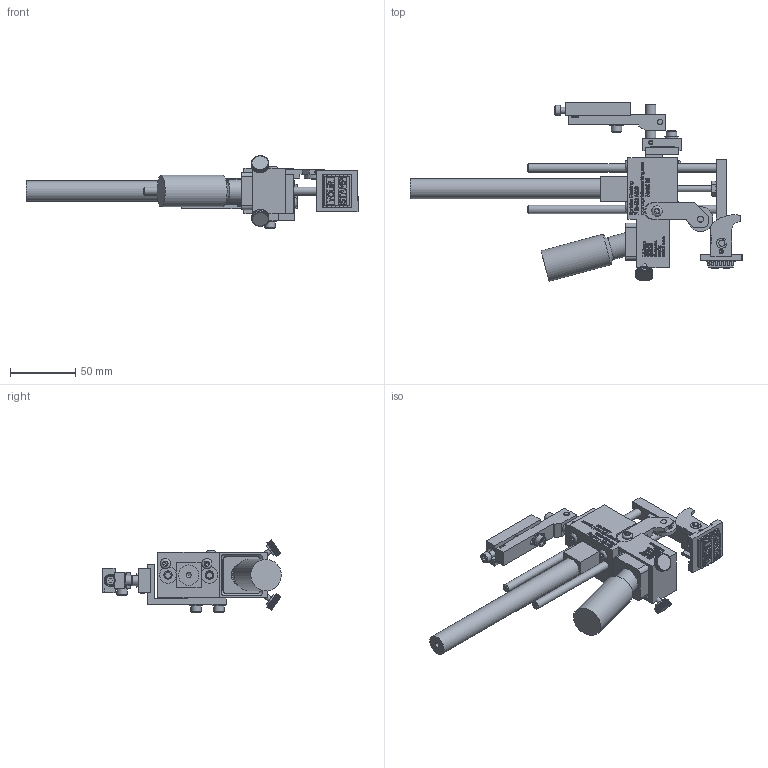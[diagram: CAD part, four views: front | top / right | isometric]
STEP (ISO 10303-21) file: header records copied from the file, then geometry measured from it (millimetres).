
FILE_DESCRIPTION((''),'2;1');
FILE_NAME('C:\Documents and Settings\Ron\My Documents\Inventor\Sprinter Drawing\Machines in Inventor\Model 88\Type\Ext Str\E2\Brkt\90\Model 88 ES 2 90 deg w brkt mod 2012.stp','2012-03-16T13:43:42',('Ron'),(''),'Autodesk Inventor 2011','Autodesk Inventor 2011','');
FILE_SCHEMA(('AUTOMOTIVE_DESIGN { 1 0 10303 214 1 1 1 1 }'));
Length unit declared in the file: inch
Products named in the file (44): Model 88  ES 2  90 deg w brkt mod 2012; 88 Frame Body; 66 Linear Bearing; Hexagon Socket Button Head Cap Screw - Inch 8 - 32 x 1/4; Hexagon Socket Head Cap Screw - Inch No. 8 - 32 UNC - 1 1/2; 10 Ink Resevior Lock Screw; INK RESERVOIR ASSY; 88 RESERVOIR; 88 Ink Pad; 66 INK BOTTLE; 88 STD Wheel Bractet Assy (prototype); 44 Wheel Retainer; 44 Cam Wheel; 88 Wheel Bracket Arm (prototype); Hexagon Socket Set Screw - Flat Point - Inch 4-48 UNF x 0.19; 8-32x0.25 Hexagon Socket Button Head Cap Screw ANSI/ASME B18.3; E2 90 deg; 88 Rod Carrier 90 deg ES 2; 88 Rod Carrier; Type A - Hexagon Socket Set Screw - Cup Point - Inch 8-32 UNC x 0.32; 66 PIVOT SHAFT; 66 PIVOT SHAFT LOCKING RING; 23 66 invert block; AS 1112 (4)  - Metric M6; 66 Spring; 19 Rod Carrier Set Screws; 88 CLIP FOR MODELS(2); 88--CLIP plate; Hexagon Socket Set Screw - Flat Point - Inch 6-32 UNC x 0.45; 88 baselock (model sized); 88 baselock STAMP; E2; Model 88 RPB; rpb4; rpb3; rpb-1; rpb2; No. 10-24x0.88 Hexagon socket head cap screw ANSI/ASME B18.3; Type B - Plain Washer (Inch) No. 10 - narrow - Type B; 66 Machine Mounting Pivot Bracket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
Assembly tree (59 placements, depth 4):
  Model 88  ES 2  90 deg w brkt mod 2012
    88 Frame Body
    66 Linear Bearing  x2
    Hexagon Socket Button Head Cap Screw - Inch 8 - 32 x 1/4  x4
    Hexagon Socket Head Cap Screw - Inch No. 8 - 32 UNC - 1 1/2  x2
    10 Ink Resevior Lock Screw  x2
    INK RESERVOIR ASSY
      88 RESERVOIR
      88 Ink Pad
      66 INK BOTTLE
    88 STD Wheel Bractet Assy (prototype)
      44 Wheel Retainer
      44 Cam Wheel
      88 Wheel Bracket Arm (prototype)
      Hexagon Socket Set Screw - Flat Point - Inch 4-48 UNF x 0.19
    8-32x0.25 Hexagon Socket Button Head Cap Screw ANSI/ASME B18.3
    E2 90 deg
    88 Rod Carrier 90 deg ES 2
      88 Rod Carrier
      Type A - Hexagon Socket Set Screw - Cup Point - Inch 8-32 UNC x 0.32
      66 PIVOT SHAFT
      66 PIVOT SHAFT LOCKING RING  x2
      23 66 invert block
      AS 1112 (4)  - Metric M6
      66 Spring
      19 Rod Carrier Set Screws  x2
      88 CLIP FOR MODELS(2)
        88--CLIP plate
        Hexagon Socket Set Screw - Flat Point - Inch 6-32 UNC x 0.45
        88 baselock (model sized)
        88 baselock STAMP
      E2  x2
    Model 88 RPB
      rpb4
      rpb3
      rpb-1
      rpb2
      No. 10-24x0.88 Hexagon socket head cap screw ANSI/ASME B18.3  x5
      Type B - Plain Washer (Inch) No. 10 - narrow - Type B  x4
      66 Machine Mounting Pivot Bracket
      Pin - Hardened Ground Machine Dowel (Inch) 1/8 x 3/4
      Pin - Hardened Ground Machine Dowel (Inch) 1/8 x 3/8
    Hexagon Socket Set Screw - Flat Point - Inch 8-32 UNC x 0.32
    10-32 PORTS DECAL
Bounding box: 254.01 x 136.58 x 55.4 mm (x, y, z)
Volume: 211292.4 mm3; surface area: 100841.6 mm2
Topology: 427 solids, 427 shells, 6413 faces, 15720 edges, 9736 vertices
Faces by surface type: plane 4465, bspline 1294, cylinder 561, cone 70, torus 23
Full cylindrical faces by diameter (mm): 1.143 x1, 2.261 x1, 2.54 x2, 2.642 x1, 2.845 x1, 3.175 x4, 3.2 x1, 3.302 x14, 3.505 x1, 3.556 x1, 3.683 x2, 3.962 x10, 4.064 x2, 4.166 x11, 4.547 x2, 4.699 x3, 4.75 x4, 4.775 x2, 4.826 x8, 4.864 x2, 4.917 x1, 5.055 x1, 5.156 x7, 5.359 x1, 5.556 x1, 6.223 x2, 6.325 x4, 6.35 x5, 6.426 x1, 6.604 x1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
Entity records: 152765 total; most frequent: CARTESIAN_POINT 45406, ORIENTED_EDGE 23888, DIRECTION 17284, EDGE_CURVE 11944, VECTOR 8532, LINE 8532, VERTEX_POINT 7674, EDGE_LOOP 5354
